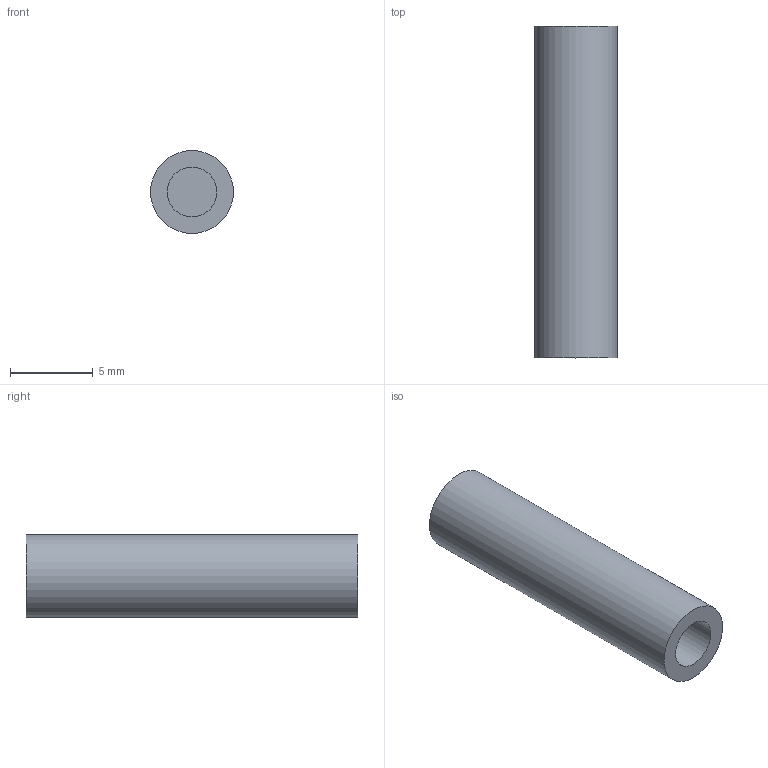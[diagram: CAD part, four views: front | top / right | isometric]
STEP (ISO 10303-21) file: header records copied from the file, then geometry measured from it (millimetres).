
FILE_DESCRIPTION(/* description */ (''),/* implementation_level */ '2;1');
FILE_NAME(/* name */ 'C:/Users/priba/Downloads/Spacer 3-20.step',/* time_stamp */ '2022-04-12T10:46:20+02:00',/* author */ (''),/* organization */ (''),/* preprocessor_version */ 'ST-DEVELOPER v18.1',/* originating_system */ 'Autodesk Translation Framework v10.13.0.1454',/* authorisation */ '');
FILE_SCHEMA (('AUTOMOTIVE_DESIGN { 1 0 10303 214 3 1 1 }'));
Length unit declared in the file: millimetre
Products named in the file (1): Spacer 3-20
Bounding box: 5 x 20 x 5 mm (x, y, z)
Volume: 307.9 mm3; surface area: 466.5 mm2
Topology: 1 solids, 1 shells, 7 faces, 9 edges, 6 vertices
Faces by surface type: plane 4, cylinder 3
Full cylindrical faces by diameter (mm): 3 x2, 5 x1
Entity records: 182 total; most frequent: DIRECTION 31, CARTESIAN_POINT 23, ORIENTED_EDGE 18, AXIS2_PLACEMENT_3D 14, EDGE_LOOP 9, EDGE_CURVE 9, FACE_OUTER_BOUND 7, ADVANCED_FACE 7
